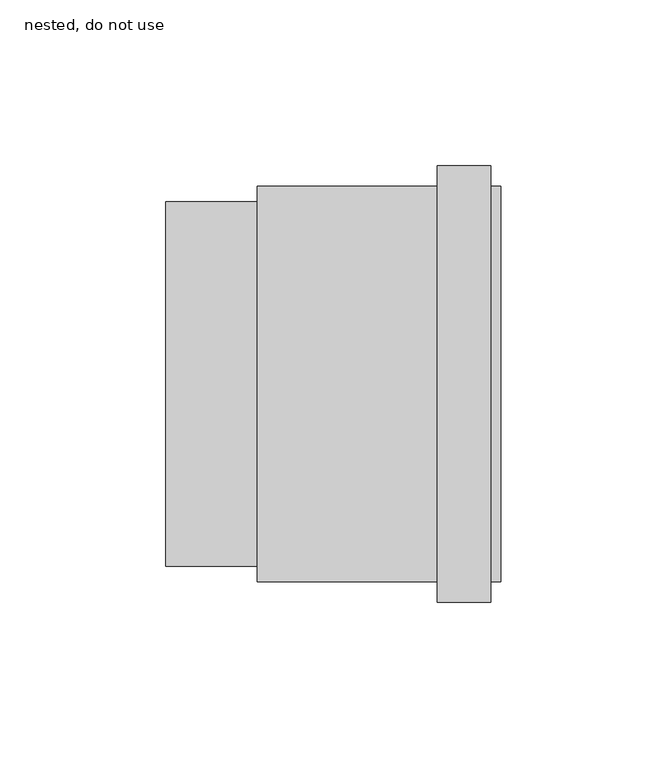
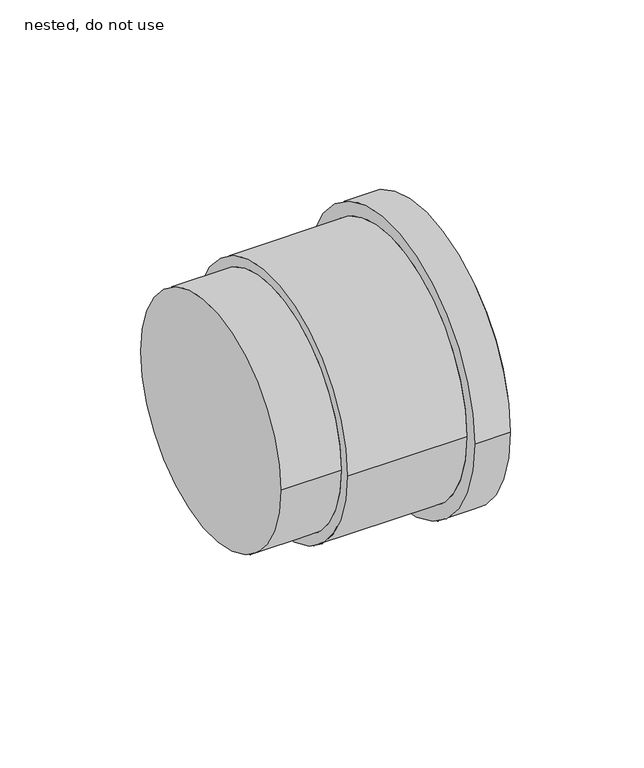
"""IFC4 building model written with IfcOpenShell, lengths in millimetres: pipe fitting geometry, ZZZ_do no use_PIF_HDPE plugin socket -SH_Akatherm : nested, do not use."""

from ifc_helpers import new_model, si_unit, frame, origin, place, context, project, spatial, circle_curve, source, transform, mapped, element, save
from ifc_brep_helpers import plane_surface, cylinder_surface, advanced_brep


def nested_do_not_use_ac7d642e(model_context):
    return source(origin(), model_context, "Body", "AdvancedBrep", [
        advanced_brep(
        [(-30.0, -55.0, 0.0), (-30.0, 55.0, 0.0), (-2.5, 55.0, 0.0), (-2.5, -55.0, 0.0), (71.0, -59.65, 0.0), (71.0, 59.65, 0.0), (-2.5, -59.65, 0.0), (-2.5, 59.65, 0.0), (68.0, -59.65, 0.0), (68.0, 59.65, 0.0), (51.8, 59.65, 0.0), (51.8, -59.65, 0.0), (68.0, -65.75, 0.0), (68.0, 65.75, 0.0), (51.8, -65.75, 0.0), (51.8, 65.75, 0.0)],
        [
            (0, 1, circle_curve(frame((-30.0, 0.0, 0.0), z_axis=(-1.0, 0.0, 0.0), x_axis=(0.0, 1.0, 0.0)), 55.0)),
            (1, 0, circle_curve(frame((-30.0, 0.0, 0.0), z_axis=(-1.0, 0.0, 0.0), x_axis=(0.0, 1.0, 0.0)), 55.0)),
            (1, 2),
            (2, 3, circle_curve(frame((-2.5, 0.0, 0.0), z_axis=(-1.0, 0.0, 0.0), x_axis=(0.0, 1.0, 0.0)), 55.0)),
            (3, 0),
            (3, 2, circle_curve(frame((-2.5, 0.0, 0.0), z_axis=(-1.0, 0.0, 0.0), x_axis=(0.0, 1.0, 0.0)), 55.0)),
            (4, 5, circle_curve(frame((71.0, 0.0, 0.0), z_axis=(1.0, 0.0, 0.0), x_axis=(0.0, 1.0, 0.0)), 59.65)),
            (5, 4, circle_curve(frame((71.0, 0.0, 0.0), z_axis=(1.0, 0.0, 0.0), x_axis=(0.0, 1.0, 0.0)), 59.65)),
            (6, 7, circle_curve(frame((-2.5, 0.0, 0.0), z_axis=(-1.0, 0.0, 0.0), x_axis=(0.0, 1.0, 0.0)), 59.65)),
            (7, 6, circle_curve(frame((-2.5, 0.0, 0.0), z_axis=(-1.0, 0.0, 0.0), x_axis=(0.0, 1.0, 0.0)), 59.65)),
            (4, 8),
            (8, 9, circle_curve(frame((68.0, 0.0, 0.0), z_axis=(1.0, 0.0, 0.0), x_axis=(0.0, 1.0, 0.0)), 59.65)),
            (9, 5),
            (7, 10),
            (10, 11, circle_curve(frame((51.8, 0.0, 0.0), z_axis=(-1.0, 0.0, 0.0), x_axis=(0.0, 1.0, 0.0)), 59.65)),
            (11, 6),
            (9, 8, circle_curve(frame((68.0, 0.0, 0.0), z_axis=(1.0, 0.0, 0.0), x_axis=(0.0, 1.0, 0.0)), 59.65)),
            (11, 10, circle_curve(frame((51.8, 0.0, 0.0), z_axis=(-1.0, 0.0, 0.0), x_axis=(0.0, 1.0, 0.0)), 59.65)),
            (12, 13, circle_curve(frame((68.0, 0.0, 0.0), z_axis=(1.0, 0.0, 0.0), x_axis=(0.0, 1.0, 0.0)), 65.75)),
            (13, 12, circle_curve(frame((68.0, 0.0, 0.0), z_axis=(1.0, 0.0, 0.0), x_axis=(0.0, 1.0, 0.0)), 65.75)),
            (14, 15, circle_curve(frame((51.8, 0.0, 0.0), z_axis=(-1.0, 0.0, 0.0), x_axis=(0.0, 1.0, 0.0)), 65.75)),
            (15, 14, circle_curve(frame((51.8, 0.0, 0.0), z_axis=(-1.0, 0.0, 0.0), x_axis=(0.0, 1.0, 0.0)), 65.75)),
            (12, 14),
            (15, 13),
        ],
        [
            plane_surface(frame((-30.0, 55.0, 0.0), z_axis=(-1.0, 0.0, 0.0), x_axis=(0.0, 0.0, -1.0))),
            cylinder_surface(frame((-30.0, 0.0, 0.0), z_axis=(1.0, 0.0, 0.0), x_axis=(0.0, 1.0, 0.0)), 55.0),
            plane_surface(frame((71.0, 59.65, 0.0), z_axis=(1.0, 0.0, 0.0), x_axis=(0.0, 0.0, 1.0))),
            plane_surface(frame((-2.5, 59.65, 0.0), z_axis=(-1.0, 0.0, 0.0), x_axis=(0.0, 0.0, -1.0))),
            cylinder_surface(frame((-2.5, 0.0, 0.0), z_axis=(1.0, 0.0, 0.0), x_axis=(0.0, 1.0, 0.0)), 59.65),
            plane_surface(frame((68.0, 65.75, 0.0), z_axis=(1.0, 0.0, 0.0), x_axis=(0.0, 0.0, 1.0))),
            plane_surface(frame((51.8, 65.75, 0.0), z_axis=(-1.0, 0.0, 0.0), x_axis=(0.0, 0.0, -1.0))),
            cylinder_surface(frame((51.8, 0.0, 0.0), z_axis=(1.0, 0.0, 0.0), x_axis=(0.0, 1.0, 0.0)), 65.75),
        ],
        [
            (0, [[1, 2]]),
            (1, [[-2, 3, 4, 5]]),
            (1, [[-1, -5, 6, -3]]),
            (2, [[7, 8]]),
            (3, [[9, 10], [-4, -6]]),
            (4, [[-7, 11, 12, 13]]),
            (4, [[-10, 14, 15, 16]]),
            (4, [[-8, -13, 17, -11]]),
            (4, [[-9, -16, 18, -14]]),
            (5, [[19, 20], [-12, -17]]),
            (6, [[21, 22], [-15, -18]]),
            (7, [[-19, 23, -22, 24]]),
            (7, [[-20, -24, -21, -23]]),
        ],
    ),
    ])


if __name__ == "__main__":
    model = new_model("IFC4")
    model_context = context("Model", 3, world=origin())
    ifc_project = project(units=[si_unit("LENGTHUNIT", "METRE", prefix="MILLI")], contexts=[model_context])
    site = spatial("IfcSite", under=ifc_project)
    building = spatial("IfcBuilding", under=site)
    placement = place(None, origin())
    nested_do_not_use_shape = nested_do_not_use_ac7d642e(model_context)
    element("IfcPipeFitting", 1, ObjectType="ZZZ_do no use_PIF_HDPE plugin socket -SH_Akatherm : nested, do not use", at=placement, inside=building, context=model_context, shape_type="MappedRepresentation", body=[
        mapped(nested_do_not_use_shape, transform((0.0, 0.0, 0.0), x_axis=(1.0, 0.0, 0.0), y_axis=(0.0, 1.0, 0.0), z_axis=(0.0, 0.0, 1.0))),
    ])
    save(model, "model.ifc")
